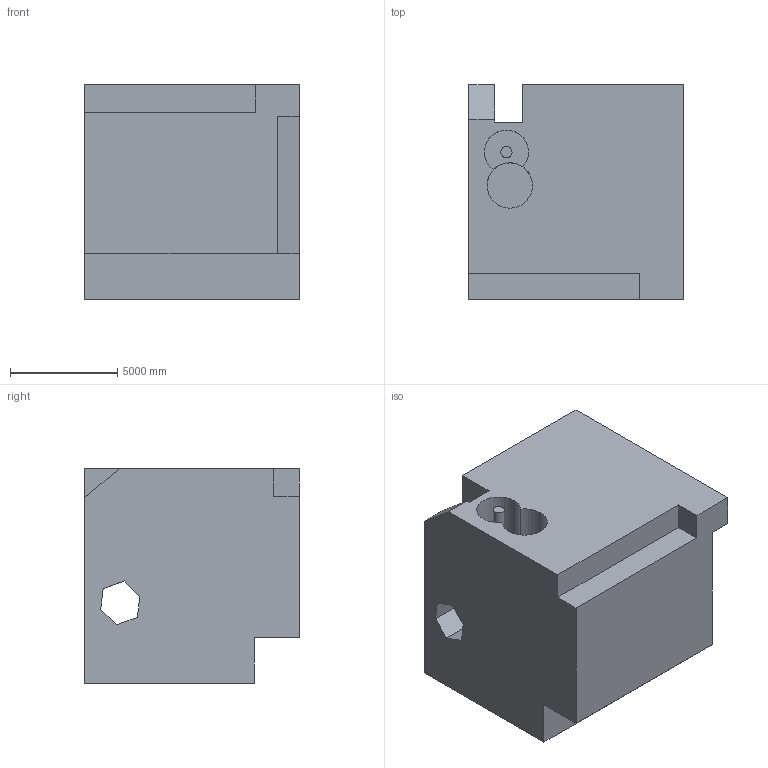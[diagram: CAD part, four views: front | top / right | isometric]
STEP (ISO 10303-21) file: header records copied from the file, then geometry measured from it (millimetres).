
FILE_DESCRIPTION (( 'STEP AP203' ), '1' );
FILE_NAME ('1953.STEP', '2022-08-25T16:51:41', ( 'user' ), ( '' ), 'SwSTEP 2.0', 'SolidWorks 2021', '' );
FILE_SCHEMA (( 'CONFIG_CONTROL_DESIGN' ));
Length unit declared in the file: centimetre
Products named in the file (1): 1953
Bounding box: 10000 x 10000 x 10000 mm (x, y, z)
Volume: 837324311469.9 mm3; surface area: 758078998 mm2
Topology: 1 solids, 1 shells, 46 faces, 129 edges, 86 vertices
Faces by surface type: plane 39, cylinder 7
Entity records: 1554 total; most frequent: CARTESIAN_POINT 262, ORIENTED_EDGE 258, DIRECTION 239, EDGE_CURVE 129, LINE 113, VECTOR 113, VERTEX_POINT 86, AXIS2_PLACEMENT_3D 63
